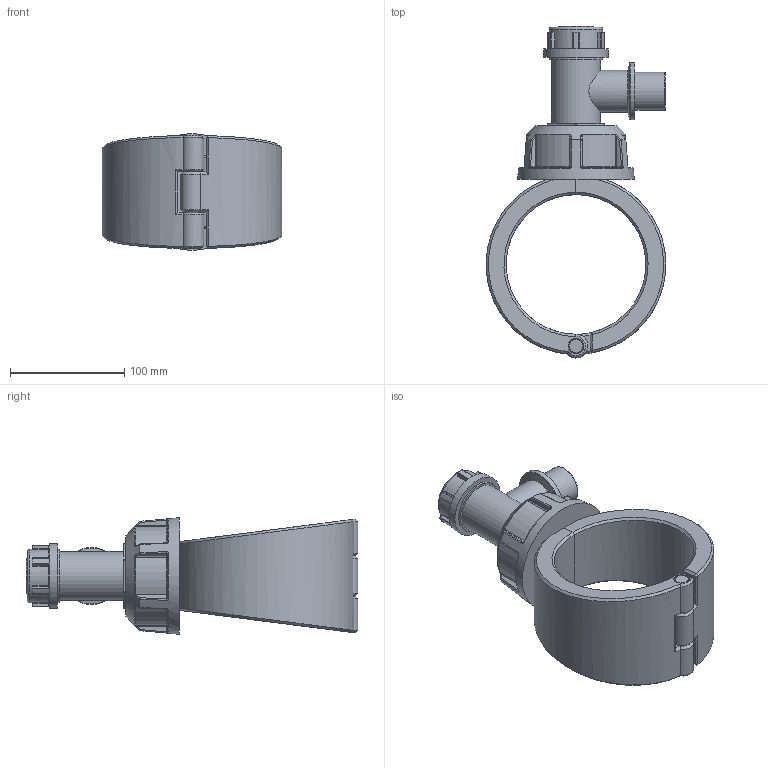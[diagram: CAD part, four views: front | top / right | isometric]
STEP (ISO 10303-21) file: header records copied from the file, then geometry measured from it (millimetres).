
FILE_DESCRIPTION(/* description */ ('Plassadle Tapper Male 122x1'''''),/* implementation_level */ '2;1');
FILE_NAME(/* name */ 'C:\Users\comp2\Dropbox\99-16-3568-Processing\Mechanical Fittings\1631R\stp\1631R0122010.stp',/* time_stamp */ '2022-02-03T12:06:34+00:00',/* author */ ('comp2'),/* organization */ (''),/* preprocessor_version */ 'ST-DEVELOPER v17.2',/* originating_system */ 'Autodesk Inventor 2019',/* authorisation */ '');
FILE_SCHEMA (('AUTOMOTIVE_DESIGN { 1 0 10303 214 3 1 1 }'));
Length unit declared in the file: millimetre
Products named in the file (1): 1631R0122010
Bounding box: 156.99 x 290 x 102 mm (x, y, z)
Volume: 1076522.1 mm3; surface area: 149136.6 mm2
Topology: 4 solids, 4 shells, 341 faces, 833 edges, 509 vertices
Faces by surface type: cylinder 110, plane 82, bspline 70, torus 40, sphere 24, cone 15
Full cylindrical faces by diameter (mm): 11.64 x1, 13.64 x3, 24.937 x1, 30.6 x1, 33.249 x1, 36.574 x1, 42.84 x1, 46.84 x2, 49.873 x1, 56.1 x1
Entity records: 13168 total; most frequent: CARTESIAN_POINT 5530, ORIENTED_EDGE 1666, DIRECTION 1492, EDGE_CURVE 833, AXIS2_PLACEMENT_3D 627, VERTEX_POINT 509, EDGE_LOOP 356, FACE_OUTER_BOUND 341
